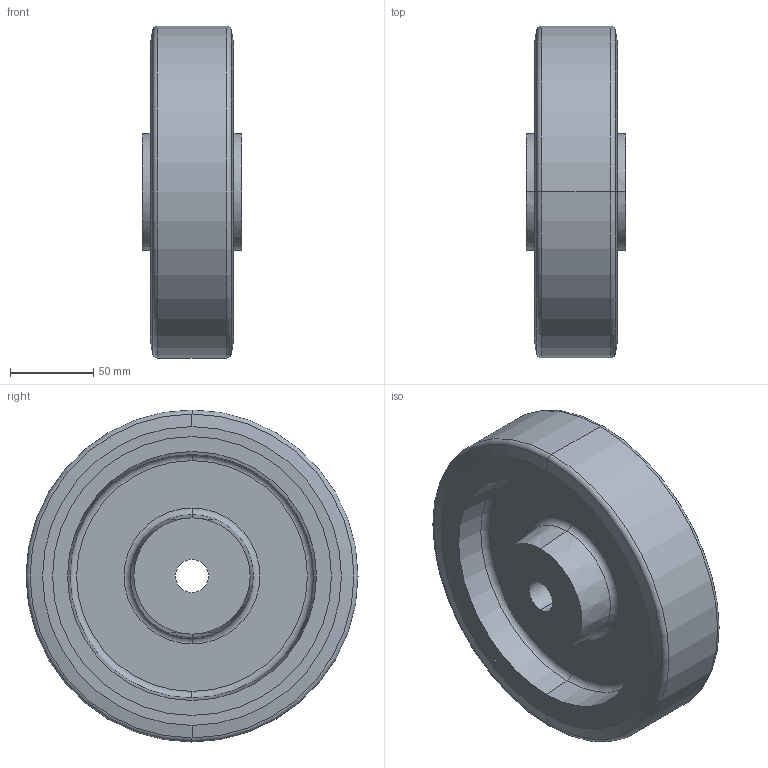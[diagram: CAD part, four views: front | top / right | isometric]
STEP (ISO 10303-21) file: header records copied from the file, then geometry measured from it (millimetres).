
FILE_DESCRIPTION (( 'STEP AP214' ), '1' );
FILE_NAME ('22887-200-B-A.step', '2024-10-28T09:26:54', ( '' ), ( '' ), 'SwSTEP 2.0', 'SolidWorks 2022', '' );
FILE_SCHEMA (( 'AUTOMOTIVE_DESIGN' ));
Length unit declared in the file: millimetre
Products named in the file (1): 22887-200-B-A
Bounding box: 60 x 200 x 200 mm (x, y, z)
Volume: 1032766.7 mm3; surface area: 121103.6 mm2
Topology: 1 solids, 1 shells, 46 faces, 92 edges, 56 vertices
Faces by surface type: cylinder 12, cone 12, torus 12, plane 10
Entity records: 1430 total; most frequent: DIRECTION 254, CARTESIAN_POINT 195, ORIENTED_EDGE 184, AXIS2_PLACEMENT_3D 115, EDGE_CURVE 92, CIRCLE 68, VERTEX_POINT 56, EDGE_LOOP 56
